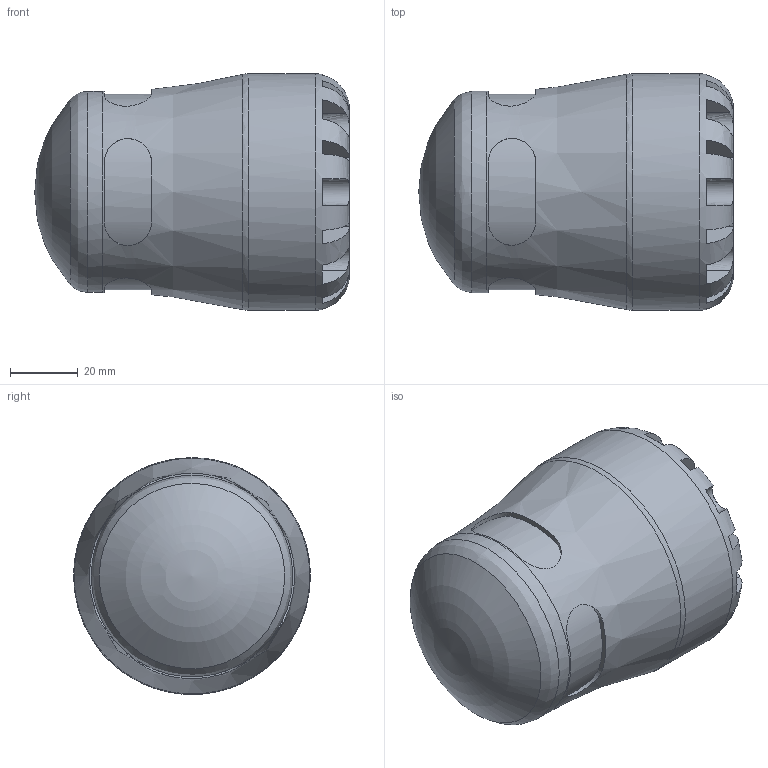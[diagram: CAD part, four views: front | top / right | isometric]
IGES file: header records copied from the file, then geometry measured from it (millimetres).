
Global section: file name: 151200040; native system: Autodesk Inventor 2019; preprocessor: unknown; author: KIM; date: 20231021.225217; units: millimetre
Bounding box: 93 x 70 x 69.95 mm (x, y, z)
Volume: 181811.2 mm3; surface area: 34188.9 mm2
Topology: 1 solids, 1 shells, 95 faces, 249 edges, 160 vertices
Faces by surface type: bspline 95
